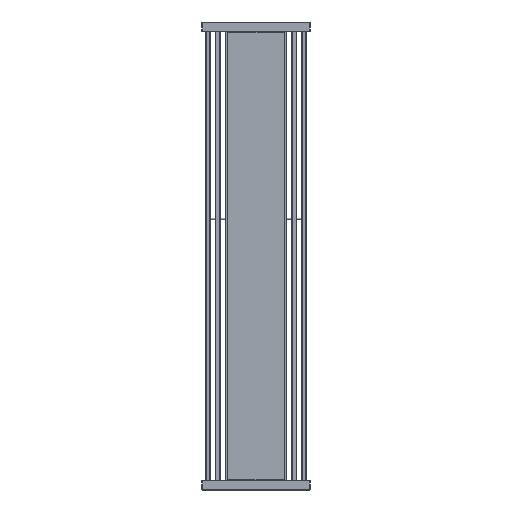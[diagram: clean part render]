
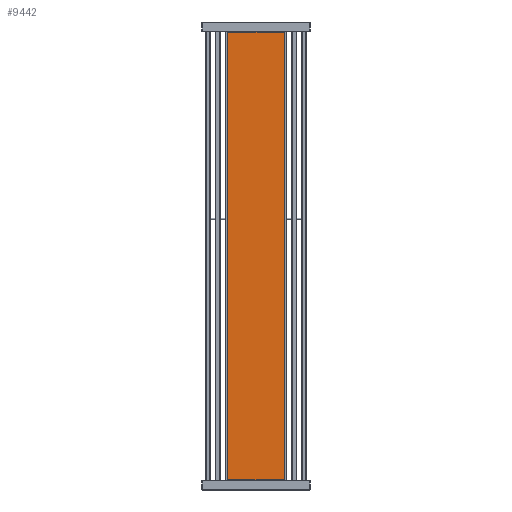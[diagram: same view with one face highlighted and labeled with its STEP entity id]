
A CAD part, front view. The second image highlights one B-rep face of the part: STEP entity #9442.
In plain terms, the highlighted planar face has unit normal (0, -1, 0).
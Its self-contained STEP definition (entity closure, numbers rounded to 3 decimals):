
#9273=CARTESIAN_POINT('',(-114.,-17.,42.5));
#9274=VERTEX_POINT('',#9273);
#9275=CARTESIAN_POINT('',(-114.,-17.,1857.5));
#9276=VERTEX_POINT('',#9275);
#9277=CARTESIAN_POINT('',(-114.,-17.,42.5));
#9278=DIRECTION('',(0.0,0.0,1.0));
#9279=VECTOR('',#9278,1815.0);
#9280=LINE('',#9277,#9279);
#9281=EDGE_CURVE('',#9274,#9276,#9280,.T.);
#9313=CARTESIAN_POINT('',(114.,-17.,1857.5));
#9314=VERTEX_POINT('',#9313);
#9315=CARTESIAN_POINT('',(-114.,-17.,1857.5));
#9316=DIRECTION('',(1.0,0.0,0.0));
#9317=VECTOR('',#9316,228.);
#9318=LINE('',#9315,#9317);
#9319=EDGE_CURVE('',#9276,#9314,#9318,.T.);
#9344=CARTESIAN_POINT('',(114.,-17.,42.5));
#9345=VERTEX_POINT('',#9344);
#9346=CARTESIAN_POINT('',(114.,-17.,1857.5));
#9347=DIRECTION('',(0.0,0.0,-1.0));
#9348=VECTOR('',#9347,1815.0);
#9349=LINE('',#9346,#9348);
#9350=EDGE_CURVE('',#9314,#9345,#9349,.T.);
#9375=CARTESIAN_POINT('',(114.,-17.,42.5));
#9376=DIRECTION('',(-1.0,0.0,0.0));
#9377=VECTOR('',#9376,228.);
#9378=LINE('',#9375,#9377);
#9379=EDGE_CURVE('',#9345,#9274,#9378,.T.);
#9431=CARTESIAN_POINT('',(0.,-17.,950.));
#9432=DIRECTION('',(0.0,-1.0,0.0));
#9433=DIRECTION('',(-1.0,0.0,0.0));
#9434=AXIS2_PLACEMENT_3D('',#9431,#9432,#9433);
#9435=PLANE('',#9434);
#9436=ORIENTED_EDGE('',*,*,#9281,.F.);
#9437=ORIENTED_EDGE('',*,*,#9379,.F.);
#9438=ORIENTED_EDGE('',*,*,#9350,.F.);
#9439=ORIENTED_EDGE('',*,*,#9319,.F.);
#9440=EDGE_LOOP('',(#9436,#9437,#9438,#9439));
#9441=FACE_OUTER_BOUND('',#9440,.T.);
#9442=ADVANCED_FACE('',(#9441),#9435,.T.);
